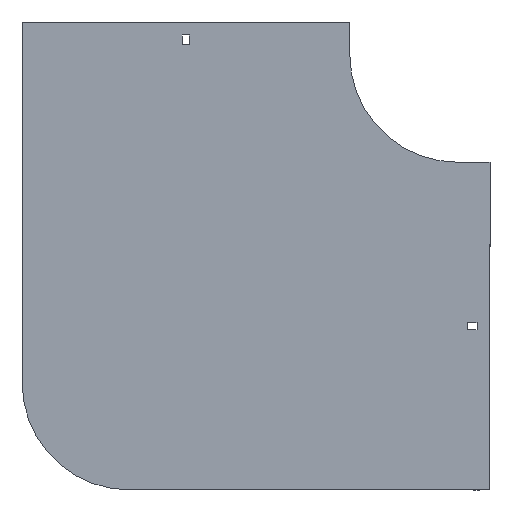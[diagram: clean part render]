
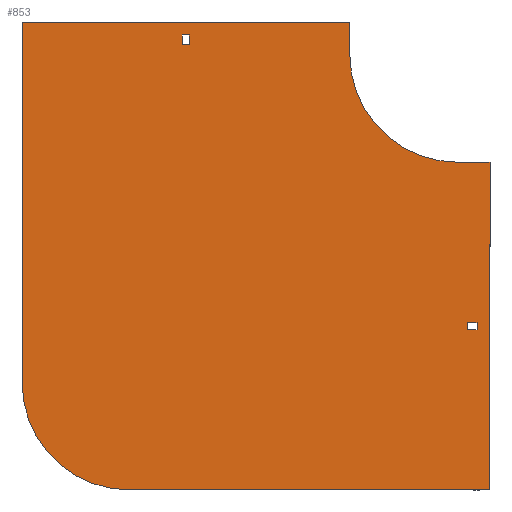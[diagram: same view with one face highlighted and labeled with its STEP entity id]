
A CAD part, front view. The second image highlights one B-rep face of the part: STEP entity #853.
In plain terms, the highlighted planar face has unit normal (0, -1, 0).
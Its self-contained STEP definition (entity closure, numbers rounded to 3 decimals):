
#45 = CARTESIAN_POINT ( 'NONE',  ( 0., 0., 0. ) ) ;
#96 = DIRECTION ( 'NONE',  ( 1., 0., 0. ) ) ;
#106 = AXIS2_PLACEMENT_3D ( 'NONE', #45, #1246, #346 ) ;
#108 = CARTESIAN_POINT ( 'NONE',  ( -404., 0., 30. ) ) ;
#137 = CARTESIAN_POINT ( 'NONE',  ( -100., 0., 30. ) ) ;
#139 = VECTOR ( 'NONE', #278, 1000. ) ;
#148 = DIRECTION ( 'NONE',  ( 0., 0., 1. ) ) ;
#155 = DIRECTION ( 'NONE',  ( 0., 1., 0. ) ) ;
#202 = VERTEX_POINT ( 'NONE', #598 ) ;
#220 = VERTEX_POINT ( 'NONE', #313 ) ;
#221 = CARTESIAN_POINT ( 'NONE',  ( -248.75, 0., 9. ) ) ;
#222 = LINE ( 'NONE', #1718, #891 ) ;
#227 = DIRECTION ( 'NONE',  ( -1., 0., 0. ) ) ;
#235 = EDGE_LOOP ( 'NONE', ( #1363, #1032, #973, #403 ) ) ;
#276 = EDGE_CURVE ( 'NONE', #1876, #202, #742, .T. ) ;
#278 = DIRECTION ( 'NONE',  ( 0., 0., 1. ) ) ;
#286 = EDGE_CURVE ( 'NONE', #486, #601, #1497, .T. ) ;
#304 = VERTEX_POINT ( 'NONE', #1089 ) ;
#313 = CARTESIAN_POINT ( 'NONE',  ( 0., 0., -100. ) ) ;
#315 = VERTEX_POINT ( 'NONE', #332 ) ;
#332 = CARTESIAN_POINT ( 'NONE',  ( 30., 0., -100. ) ) ;
#346 = DIRECTION ( 'NONE',  ( 0., 0., -1. ) ) ;
#373 = CARTESIAN_POINT ( 'NONE',  ( -255.25, 0., 18. ) ) ;
#375 = CARTESIAN_POINT ( 'NONE',  ( -404., 0., -304. ) ) ;
#403 = ORIENTED_EDGE ( 'NONE', *, *, #276, .F. ) ;
#441 = CARTESIAN_POINT ( 'NONE',  ( -248.75, 0., 9. ) ) ;
#458 = VERTEX_POINT ( 'NONE', #1454 ) ;
#474 = CARTESIAN_POINT ( 'NONE',  ( -255.25, 0., 9. ) ) ;
#486 = VERTEX_POINT ( 'NONE', #1622 ) ;
#496 = DIRECTION ( 'NONE',  ( 0., 0., 1. ) ) ;
#505 = ORIENTED_EDGE ( 'NONE', *, *, #1185, .F. ) ;
#507 = VECTOR ( 'NONE', #636, 1000. ) ;
#537 = ORIENTED_EDGE ( 'NONE', *, *, #905, .F. ) ;
#543 = DIRECTION ( 'NONE',  ( 1., 0., 0. ) ) ;
#554 = VERTEX_POINT ( 'NONE', #375 ) ;
#578 = FACE_BOUND ( 'NONE', #1706, .T. ) ;
#598 = CARTESIAN_POINT ( 'NONE',  ( 9., 0., -248.75 ) ) ;
#601 = VERTEX_POINT ( 'NONE', #441 ) ;
#622 = DIRECTION ( 'NONE',  ( -1., 0., 0. ) ) ;
#636 = DIRECTION ( 'NONE',  ( 0., 0., -1. ) ) ;
#639 = ORIENTED_EDGE ( 'NONE', *, *, #1890, .F. ) ;
#664 = ORIENTED_EDGE ( 'NONE', *, *, #1732, .F. ) ;
#665 = CARTESIAN_POINT ( 'NONE',  ( -404., 0., 30. ) ) ;
#674 = VERTEX_POINT ( 'NONE', #1535 ) ;
#683 = EDGE_CURVE ( 'NONE', #1819, #1494, #1882, .T. ) ;
#686 = CARTESIAN_POINT ( 'NONE',  ( -100., 0., 30. ) ) ;
#711 = ORIENTED_EDGE ( 'NONE', *, *, #1510, .F. ) ;
#712 = EDGE_CURVE ( 'NONE', #601, #674, #1259, .T. ) ;
#732 = DIRECTION ( 'NONE',  ( -1., 0., 0. ) ) ;
#742 = LINE ( 'NONE', #1061, #1670 ) ;
#769 = LINE ( 'NONE', #928, #1272 ) ;
#774 = ORIENTED_EDGE ( 'NONE', *, *, #1172, .F. ) ;
#779 = LINE ( 'NONE', #474, #1899 ) ;
#781 = CARTESIAN_POINT ( 'NONE',  ( 9., 0., -255.25 ) ) ;
#787 = LINE ( 'NONE', #1397, #1025 ) ;
#788 = AXIS2_PLACEMENT_3D ( 'NONE', #1791, #1914, #1479 ) ;
#798 = VERTEX_POINT ( 'NONE', #665 ) ;
#823 = VECTOR ( 'NONE', #1889, 1000. ) ;
#853 = ADVANCED_FACE ( 'NONE', ( #578, #1923, #1903 ), #1322, .T. ) ;
#858 = ORIENTED_EDGE ( 'NONE', *, *, #949, .T. ) ;
#882 = VERTEX_POINT ( 'NONE', #137 ) ;
#891 = VECTOR ( 'NONE', #622, 1000. ) ;
#905 = EDGE_CURVE ( 'NONE', #798, #882, #1451, .T. ) ;
#919 = VECTOR ( 'NONE', #96, 1000. ) ;
#923 = VECTOR ( 'NONE', #543, 1000. ) ;
#928 = CARTESIAN_POINT ( 'NONE',  ( 9., 0., -255.25 ) ) ;
#949 = EDGE_CURVE ( 'NONE', #674, #1905, #779, .T. ) ;
#957 = LINE ( 'NONE', #1691, #1803 ) ;
#973 = ORIENTED_EDGE ( 'NONE', *, *, #1375, .F. ) ;
#978 = ORIENTED_EDGE ( 'NONE', *, *, #1669, .F. ) ;
#987 = CARTESIAN_POINT ( 'NONE',  ( -255.25, 0., 9. ) ) ;
#1025 = VECTOR ( 'NONE', #1256, 1000. ) ;
#1032 = ORIENTED_EDGE ( 'NONE', *, *, #683, .F. ) ;
#1061 = CARTESIAN_POINT ( 'NONE',  ( 9., 0., -248.75 ) ) ;
#1065 = EDGE_CURVE ( 'NONE', #304, #554, #1740, .T. ) ;
#1089 = CARTESIAN_POINT ( 'NONE',  ( -304., 0., -404. ) ) ;
#1150 = CARTESIAN_POINT ( 'NONE',  ( 18., 0., -248.75 ) ) ;
#1172 = EDGE_CURVE ( 'NONE', #315, #458, #787, .T. ) ;
#1185 = EDGE_CURVE ( 'NONE', #1421, #220, #1936, .T. ) ;
#1219 = CARTESIAN_POINT ( 'NONE',  ( -404., 0., -304. ) ) ;
#1246 = DIRECTION ( 'NONE',  ( 0., -1., 0. ) ) ;
#1256 = DIRECTION ( 'NONE',  ( 0., 0., -1. ) ) ;
#1259 = LINE ( 'NONE', #987, #1390 ) ;
#1272 = VECTOR ( 'NONE', #1374, 1000. ) ;
#1296 = ORIENTED_EDGE ( 'NONE', *, *, #1065, .F. ) ;
#1322 = PLANE ( 'NONE',  #788 ) ;
#1324 = CARTESIAN_POINT ( 'NONE',  ( 18., 0., -255.25 ) ) ;
#1358 = EDGE_LOOP ( 'NONE', ( #537, #978, #1296, #711, #774, #664, #505, #639 ) ) ;
#1363 = ORIENTED_EDGE ( 'NONE', *, *, #1601, .F. ) ;
#1371 = LINE ( 'NONE', #1219, #139 ) ;
#1374 = DIRECTION ( 'NONE',  ( 0., 0., -1. ) ) ;
#1375 = EDGE_CURVE ( 'NONE', #202, #1819, #769, .T. ) ;
#1382 = CARTESIAN_POINT ( 'NONE',  ( 18., 0., -255.25 ) ) ;
#1390 = VECTOR ( 'NONE', #227, 1000. ) ;
#1397 = CARTESIAN_POINT ( 'NONE',  ( 30., 0., -100. ) ) ;
#1419 = CARTESIAN_POINT ( 'NONE',  ( 9., 0., -255.25 ) ) ;
#1421 = VERTEX_POINT ( 'NONE', #1659 ) ;
#1451 = LINE ( 'NONE', #108, #919 ) ;
#1454 = CARTESIAN_POINT ( 'NONE',  ( 30., 0., -404. ) ) ;
#1462 = DIRECTION ( 'NONE',  ( 0., 0., -1. ) ) ;
#1479 = DIRECTION ( 'NONE',  ( 0., 0., -1. ) ) ;
#1494 = VERTEX_POINT ( 'NONE', #1382 ) ;
#1497 = LINE ( 'NONE', #221, #507 ) ;
#1510 = EDGE_CURVE ( 'NONE', #458, #304, #222, .T. ) ;
#1535 = CARTESIAN_POINT ( 'NONE',  ( -255.25, 0., 9. ) ) ;
#1601 = EDGE_CURVE ( 'NONE', #1494, #1876, #1918, .T. ) ;
#1622 = CARTESIAN_POINT ( 'NONE',  ( -248.75, 0., 18. ) ) ;
#1655 = CARTESIAN_POINT ( 'NONE',  ( -304., 0., -304. ) ) ;
#1659 = CARTESIAN_POINT ( 'NONE',  ( -100., 0., 0. ) ) ;
#1669 = EDGE_CURVE ( 'NONE', #554, #798, #1371, .T. ) ;
#1670 = VECTOR ( 'NONE', #732, 1000. ) ;
#1672 = DIRECTION ( 'NONE',  ( 1., 0., 0. ) ) ;
#1691 = CARTESIAN_POINT ( 'NONE',  ( 0., 0., -100. ) ) ;
#1706 = EDGE_LOOP ( 'NONE', ( #858, #1772, #1724, #1815 ) ) ;
#1712 = VECTOR ( 'NONE', #1462, 1000. ) ;
#1718 = CARTESIAN_POINT ( 'NONE',  ( 30., 0., -404. ) ) ;
#1724 = ORIENTED_EDGE ( 'NONE', *, *, #286, .T. ) ;
#1732 = EDGE_CURVE ( 'NONE', #220, #315, #957, .T. ) ;
#1734 = LINE ( 'NONE', #373, #923 ) ;
#1740 = CIRCLE ( 'NONE', #1774, 100. ) ;
#1744 = VECTOR ( 'NONE', #1926, 1000. ) ;
#1755 = CARTESIAN_POINT ( 'NONE',  ( -255.25, 0., 18. ) ) ;
#1772 = ORIENTED_EDGE ( 'NONE', *, *, #1892, .T. ) ;
#1774 = AXIS2_PLACEMENT_3D ( 'NONE', #1655, #155, #496 ) ;
#1791 = CARTESIAN_POINT ( 'NONE',  ( 0., 0., 0. ) ) ;
#1803 = VECTOR ( 'NONE', #1672, 1000. ) ;
#1815 = ORIENTED_EDGE ( 'NONE', *, *, #712, .T. ) ;
#1819 = VERTEX_POINT ( 'NONE', #781 ) ;
#1876 = VERTEX_POINT ( 'NONE', #1150 ) ;
#1882 = LINE ( 'NONE', #1419, #823 ) ;
#1889 = DIRECTION ( 'NONE',  ( 1., 0., 0. ) ) ;
#1890 = EDGE_CURVE ( 'NONE', #882, #1421, #1891, .T. ) ;
#1891 = LINE ( 'NONE', #686, #1712 ) ;
#1892 = EDGE_CURVE ( 'NONE', #1905, #486, #1734, .T. ) ;
#1899 = VECTOR ( 'NONE', #148, 1000. ) ;
#1903 = FACE_BOUND ( 'NONE', #235, .T. ) ;
#1905 = VERTEX_POINT ( 'NONE', #1755 ) ;
#1914 = DIRECTION ( 'NONE',  ( 0., -1., 0. ) ) ;
#1918 = LINE ( 'NONE', #1324, #1744 ) ;
#1923 = FACE_OUTER_BOUND ( 'NONE', #1358, .T. ) ;
#1926 = DIRECTION ( 'NONE',  ( 0., 0., 1. ) ) ;
#1936 = CIRCLE ( 'NONE', #106, 100. ) ;
